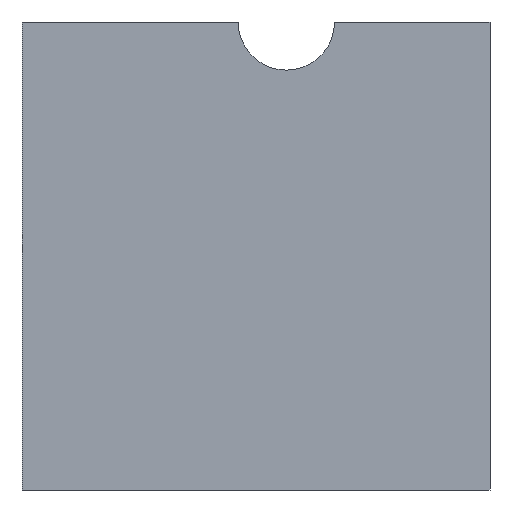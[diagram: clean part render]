
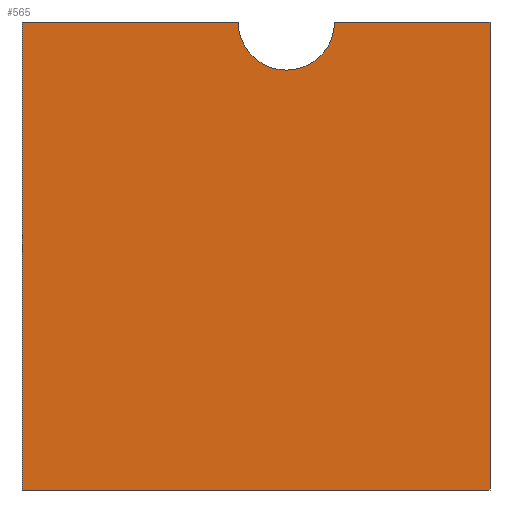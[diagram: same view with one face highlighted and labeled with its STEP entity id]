
A CAD part, left-side view. The second image highlights one B-rep face of the part: STEP entity #565.
In plain terms, the highlighted planar face has unit normal (-1, 0, 0).
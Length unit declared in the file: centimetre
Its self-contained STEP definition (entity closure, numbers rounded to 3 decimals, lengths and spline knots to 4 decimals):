
#32 = ORIENTED_EDGE ( 'NONE', *, *, #412, .T. ) ;
#36 = VERTEX_POINT ( 'NONE', #1397 ) ;
#70 = VERTEX_POINT ( 'NONE', #909 ) ;
#72 = FACE_OUTER_BOUND ( 'NONE', #627, .T. ) ;
#81 = DIRECTION ( 'NONE',  ( 0., -1., 0. ) ) ;
#117 = EDGE_CURVE ( 'NONE', #1578, #70, #460, .T. ) ;
#139 = EDGE_CURVE ( 'NONE', #1313, #471, #1471, .T. ) ;
#157 = CARTESIAN_POINT ( 'NONE',  ( 0., 1000., 1000. ) ) ;
#311 = VERTEX_POINT ( 'NONE', #1386 ) ;
#318 = VECTOR ( 'NONE', #81, 100. ) ;
#331 = VECTOR ( 'NONE', #1267, 100. ) ;
#362 = AXIS2_PLACEMENT_3D ( 'NONE', #431, #966, #1470 ) ;
#405 = ORIENTED_EDGE ( 'NONE', *, *, #837, .F. ) ;
#412 = EDGE_CURVE ( 'NONE', #311, #1313, #1285, .T. ) ;
#431 = CARTESIAN_POINT ( 'NONE',  ( 0., 1000., 1000. ) ) ;
#451 = DIRECTION ( 'NONE',  ( 0., 0., 1. ) ) ;
#458 = PLANE ( 'NONE',  #362 ) ;
#460 = CIRCLE ( 'NONE', #694, 102.941 ) ;
#471 = VERTEX_POINT ( 'NONE', #948 ) ;
#477 = CARTESIAN_POINT ( 'NONE',  ( 0., 1000., 1000. ) ) ;
#549 = VECTOR ( 'NONE', #1152, 100. ) ;
#565 = ADVANCED_FACE ( 'NONE', ( #72 ), #458, .F. ) ;
#592 = LINE ( 'NONE', #602, #1500 ) ;
#602 = CARTESIAN_POINT ( 'NONE',  ( 0., 0., 1000. ) ) ;
#612 = EDGE_CURVE ( 'NONE', #36, #471, #592, .T. ) ;
#627 = EDGE_LOOP ( 'NONE', ( #405, #1492, #1252, #32, #1510, #1222 ) ) ;
#648 = EDGE_CURVE ( 'NONE', #311, #1578, #713, .T. ) ;
#694 = AXIS2_PLACEMENT_3D ( 'NONE', #1091, #1316, #451 ) ;
#713 = LINE ( 'NONE', #477, #318 ) ;
#837 = EDGE_CURVE ( 'NONE', #70, #36, #1525, .T. ) ;
#909 = CARTESIAN_POINT ( 'NONE',  ( 0., 332.2204, 1000. ) ) ;
#948 = CARTESIAN_POINT ( 'NONE',  ( 0., 0., 0. ) ) ;
#966 = DIRECTION ( 'NONE',  ( 1., 0., 0. ) ) ;
#1005 = CARTESIAN_POINT ( 'NONE',  ( 0., 1000., 1000. ) ) ;
#1091 = CARTESIAN_POINT ( 'NONE',  ( 0., 435.1614, 1000. ) ) ;
#1098 = DIRECTION ( 'NONE',  ( 0., 0., -1. ) ) ;
#1152 = DIRECTION ( 'NONE',  ( 0., -1., 0. ) ) ;
#1222 = ORIENTED_EDGE ( 'NONE', *, *, #612, .F. ) ;
#1252 = ORIENTED_EDGE ( 'NONE', *, *, #648, .F. ) ;
#1267 = DIRECTION ( 'NONE',  ( 0., 0., -1. ) ) ;
#1285 = LINE ( 'NONE', #157, #331 ) ;
#1309 = CARTESIAN_POINT ( 'NONE',  ( 0., 1000., 0. ) ) ;
#1313 = VERTEX_POINT ( 'NONE', #1409 ) ;
#1316 = DIRECTION ( 'NONE',  ( -1., 0., 0. ) ) ;
#1386 = CARTESIAN_POINT ( 'NONE',  ( 0., 1000., 1000. ) ) ;
#1397 = CARTESIAN_POINT ( 'NONE',  ( 0., 0., 1000. ) ) ;
#1409 = CARTESIAN_POINT ( 'NONE',  ( 0., 1000., 0. ) ) ;
#1470 = DIRECTION ( 'NONE',  ( 0., 0., -1. ) ) ;
#1471 = LINE ( 'NONE', #1309, #1632 ) ;
#1492 = ORIENTED_EDGE ( 'NONE', *, *, #117, .F. ) ;
#1497 = CARTESIAN_POINT ( 'NONE',  ( 0., 538.1025, 1000. ) ) ;
#1500 = VECTOR ( 'NONE', #1098, 100. ) ;
#1510 = ORIENTED_EDGE ( 'NONE', *, *, #139, .T. ) ;
#1525 = LINE ( 'NONE', #1005, #549 ) ;
#1578 = VERTEX_POINT ( 'NONE', #1497 ) ;
#1599 = DIRECTION ( 'NONE',  ( 0., -1., 0. ) ) ;
#1632 = VECTOR ( 'NONE', #1599, 100. ) ;
